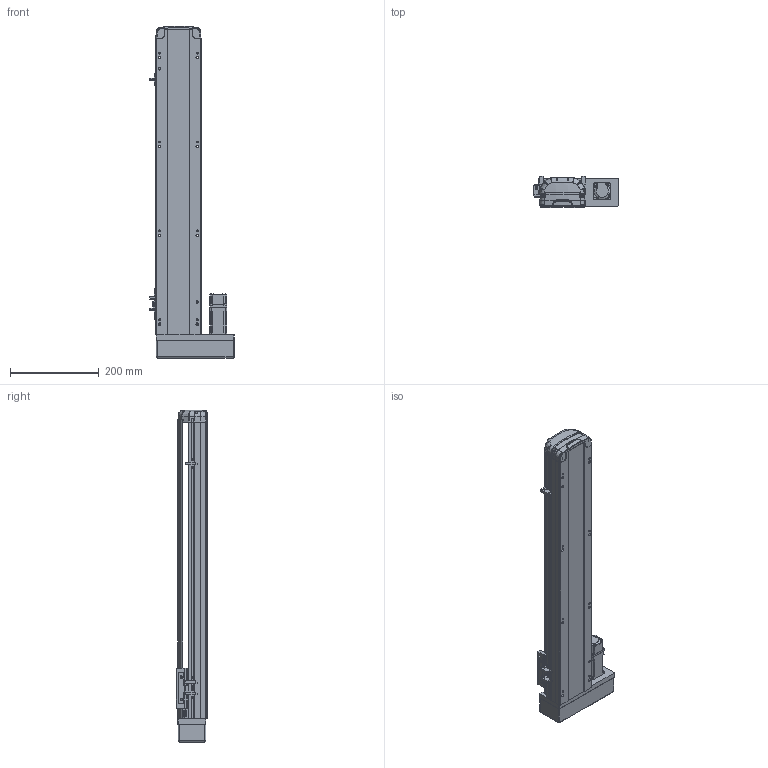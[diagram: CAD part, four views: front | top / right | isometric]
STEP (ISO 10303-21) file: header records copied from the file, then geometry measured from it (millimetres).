
FILE_DESCRIPTION (( 'STEP AP214' ), '1' );
FILE_NAME ('RTH10-XX-500-R-M10-C4.STEP', '2025-10-25T05:54:02', ( 'Microsoft' ), ( 'Microsoft' ), 'SwSTEP 2.0', 'SolidWorks 2018', '' );
FILE_SCHEMA (( 'AUTOMOTIVE_DESIGN' ));
Length unit declared in the file: millimetre
Products named in the file (10): N_P10^RTH10-XX-100-R-M10-C4; N_RTH12-GY-001P^RTH10-XX-100-R-M10-C4; N_RTH12-M-007P-奻裔^RTH10-XX-100-R-M10-C4; N_RTH12-L-018-裔赽^RTH10-XX-100-R-M10-C4; RTH10-XX-500-R-M10-C4; N_RTH12-M-011P-臏倰第菁釱^RTH10-XX-100-R-M10-C4; N_OMRON EE-SX672 传感器^RTH10-XX-100-R-M10-C4; N_RTH12-L-008萇儂啣^RTH10-XX-100-R-M10-C4; N_RTH12-GY-004-賑釱^RTH10-XX-100-R-M10-C4; N_RTH13-L-012覜茼え俋离^RTH10-XX-100-R-M10-C4
Assembly tree (11 placements, depth 2):
  RTH10-XX-500-R-M10-C4
    N_RTH12-M-011P-臏倰第菁釱^RTH10-XX-100-R-M10-C4
    N_RTH13-L-012覜茼え俋离^RTH10-XX-100-R-M10-C4
    N_OMRON EE-SX672 传感器^RTH10-XX-100-R-M10-C4  x3
    N_P10^RTH10-XX-100-R-M10-C4
    N_RTH12-M-007P-奻裔^RTH10-XX-100-R-M10-C4
    N_RTH12-L-008萇儂啣^RTH10-XX-100-R-M10-C4
    N_RTH12-L-018-裔赽^RTH10-XX-100-R-M10-C4
    N_RTH12-GY-004-賑釱^RTH10-XX-100-R-M10-C4
    N_RTH12-GY-001P^RTH10-XX-100-R-M10-C4
Bounding box: 190 x 70 x 747.14 mm (x, y, z)
Volume: 3381187.9 mm3; surface area: 526228.6 mm2
Topology: 10 solids, 12 shells, 1900 faces, 5290 edges, 3469 vertices
Faces by surface type: plane 943, bspline 472, cylinder 450, cone 29, sphere 4, torus 2
Entity records: 56926 total; most frequent: CARTESIAN_POINT 22869, ORIENTED_EDGE 7652, DIRECTION 5832, EDGE_CURVE 3832, VERTEX_POINT 2513, LINE 2016, VECTOR 2016, AXIS2_PLACEMENT_3D 1908
